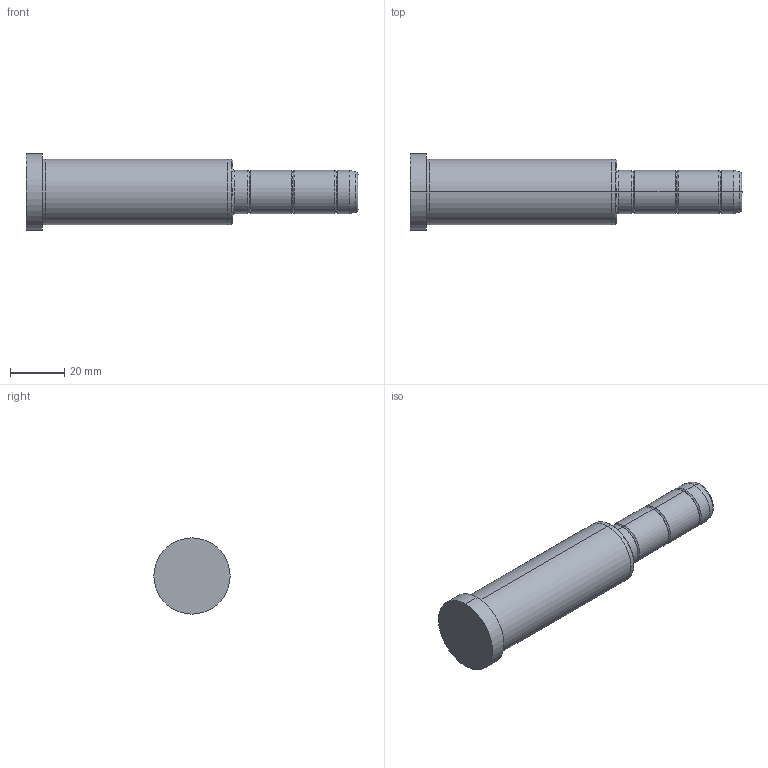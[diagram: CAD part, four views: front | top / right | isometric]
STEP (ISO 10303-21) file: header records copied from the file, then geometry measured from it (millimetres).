
FILE_DESCRIPTION( ( 'STEP AP203' ), '1' );
FILE_NAME( 'D:/Delta 3 D/D02/16/D02 - 16x76x46.step', '2003-01-04T13:06:33', ( ' ' ), ( ' ' ), 'XStep 1.0', ' ', ' ' );
FILE_SCHEMA( ( 'CONFIG_CONTROL_DESIGN' ) );
Length unit declared in the file: metre
Products named in the file (1): 1
Bounding box: 122 x 28 x 28 mm (x, y, z)
Volume: 44533.4 mm3; surface area: 9347.3 mm2
Topology: 1 solids, 1 shells, 42 faces, 82 edges, 46 vertices
Faces by surface type: bspline 22, revolution 20
Entity records: 1325 total; most frequent: CARTESIAN_POINT 517, ORIENTED_EDGE 164, DIRECTION 134, EDGE_CURVE 82, AXIS2_PLACEMENT_3D 47, EDGE_LOOP 46, VERTEX_POINT 46, CIRCLE 46
